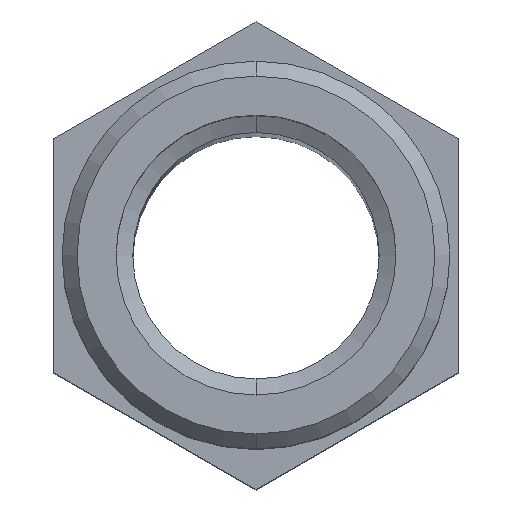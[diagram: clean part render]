
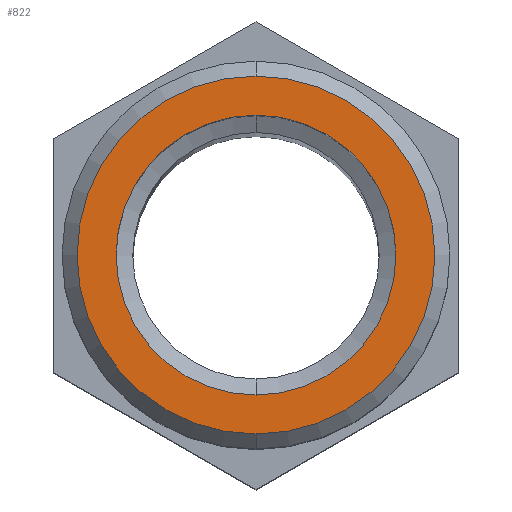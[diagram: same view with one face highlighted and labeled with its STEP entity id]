
A CAD part, top view. The second image highlights one B-rep face of the part: STEP entity #822.
In plain terms, the highlighted planar face has unit normal (0, 0, 1).
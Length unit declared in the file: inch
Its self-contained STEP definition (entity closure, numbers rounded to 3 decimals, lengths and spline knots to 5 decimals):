
#3 = VERTEX_POINT ( 'NONE', #860 ) ;
#48 = DIRECTION ( 'NONE',  ( 0., 1., 0. ) ) ;
#99 = EDGE_CURVE ( 'NONE', #899, #826, #800, .T. ) ;
#107 = EDGE_CURVE ( 'NONE', #744, #3, #209, .T. ) ;
#136 = DIRECTION ( 'NONE',  ( 0., 1., 0. ) ) ;
#148 = CARTESIAN_POINT ( 'NONE',  ( 0., 0., 0.76 ) ) ;
#171 = EDGE_CURVE ( 'NONE', #826, #899, #824, .T. ) ;
#189 = ORIENTED_EDGE ( 'NONE', *, *, #400, .F. ) ;
#190 = EDGE_LOOP ( 'NONE', ( #501, #189 ) ) ;
#209 = CIRCLE ( 'NONE', #543, 0.358 ) ;
#239 = CARTESIAN_POINT ( 'NONE',  ( 0., 0.358, 0.76 ) ) ;
#290 = EDGE_LOOP ( 'NONE', ( #697, #472 ) ) ;
#295 = CARTESIAN_POINT ( 'NONE',  ( 0., 0., 0.76 ) ) ;
#312 = AXIS2_PLACEMENT_3D ( 'NONE', #295, #590, #136 ) ;
#324 = PLANE ( 'NONE',  #867 ) ;
#334 = CARTESIAN_POINT ( 'NONE',  ( 0., 0., 0.76 ) ) ;
#381 = DIRECTION ( 'NONE',  ( 0., 0., -1. ) ) ;
#382 = FACE_BOUND ( 'NONE', #290, .T. ) ;
#400 = EDGE_CURVE ( 'NONE', #3, #744, #625, .T. ) ;
#431 = CARTESIAN_POINT ( 'NONE',  ( 0., -0.28, 0.76 ) ) ;
#434 = CARTESIAN_POINT ( 'NONE',  ( 0., 0., 0.76 ) ) ;
#447 = DIRECTION ( 'NONE',  ( 0., 1., 0. ) ) ;
#472 = ORIENTED_EDGE ( 'NONE', *, *, #99, .T. ) ;
#501 = ORIENTED_EDGE ( 'NONE', *, *, #107, .F. ) ;
#543 = AXIS2_PLACEMENT_3D ( 'NONE', #434, #792, #48 ) ;
#562 = DIRECTION ( 'NONE',  ( 0., 0., -1. ) ) ;
#584 = FACE_OUTER_BOUND ( 'NONE', #190, .T. ) ;
#590 = DIRECTION ( 'NONE',  ( 0., 0., -1. ) ) ;
#625 = CIRCLE ( 'NONE', #671, 0.358 ) ;
#633 = CARTESIAN_POINT ( 'NONE',  ( 0., 0.28, 0.76 ) ) ;
#671 = AXIS2_PLACEMENT_3D ( 'NONE', #334, #562, #835 ) ;
#697 = ORIENTED_EDGE ( 'NONE', *, *, #171, .T. ) ;
#744 = VERTEX_POINT ( 'NONE', #239 ) ;
#762 = DIRECTION ( 'NONE',  ( 0., -1., 0. ) ) ;
#792 = DIRECTION ( 'NONE',  ( 0., 0., -1. ) ) ;
#800 = CIRCLE ( 'NONE', #312, 0.28 ) ;
#822 = ADVANCED_FACE ( 'NONE', ( #382, #584 ), #324, .T. ) ;
#824 = CIRCLE ( 'NONE', #918, 0.28 ) ;
#826 = VERTEX_POINT ( 'NONE', #840 ) ;
#835 = DIRECTION ( 'NONE',  ( 0., 1., 0. ) ) ;
#840 = CARTESIAN_POINT ( 'NONE',  ( 0., 0.28, 0.76 ) ) ;
#860 = CARTESIAN_POINT ( 'NONE',  ( 0., -0.358, 0.76 ) ) ;
#867 = AXIS2_PLACEMENT_3D ( 'NONE', #633, #890, #762 ) ;
#890 = DIRECTION ( 'NONE',  ( 0., 0., 1. ) ) ;
#899 = VERTEX_POINT ( 'NONE', #431 ) ;
#918 = AXIS2_PLACEMENT_3D ( 'NONE', #148, #381, #447 ) ;
